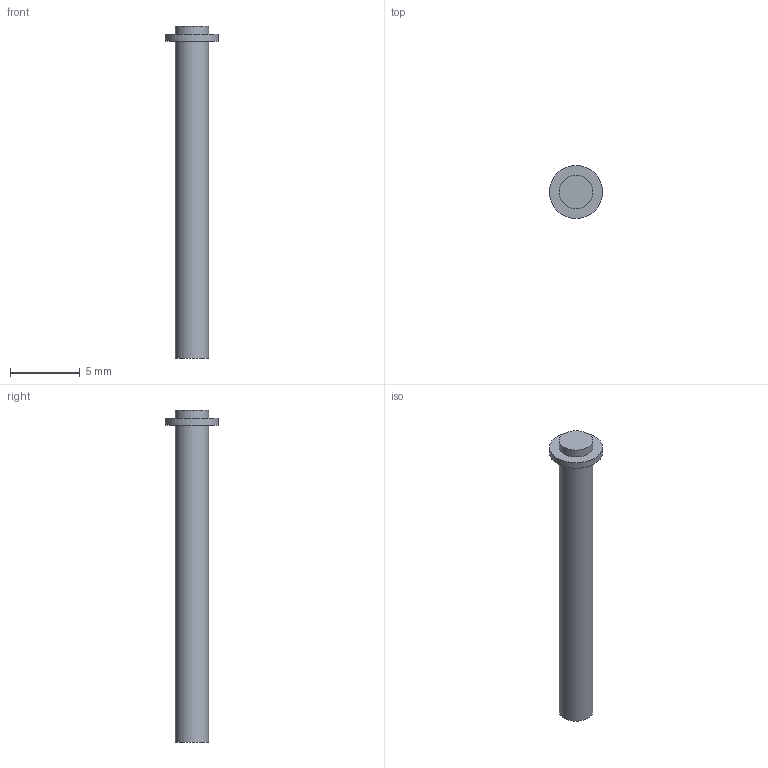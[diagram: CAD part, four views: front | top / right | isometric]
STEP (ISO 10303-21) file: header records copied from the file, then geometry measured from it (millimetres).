
FILE_DESCRIPTION(('FreeCAD Model'),'2;1');
FILE_NAME('Open CASCADE Shape Model','2026-10-24T11:59:21',('FreeCAD'),( 'FreeCAD'),'Open CASCADE STEP processor 7.8','FreeCAD','Unknown');
FILE_SCHEMA(('AUTOMOTIVE_DESIGN { 1 0 10303 214 1 1 1 1 }'));
Length unit declared in the file: millimetre
Products named in the file (1): Open CASCADE STEP translator 7.8 3
Bounding box: 3.8 x 3.8 x 23.8 mm (x, y, z)
Volume: 111.1 mm3; surface area: 204.3 mm2
Topology: 1 solids, 1 shells, 7 faces, 9 edges, 6 vertices
Faces by surface type: plane 4, cylinder 3
Full cylindrical faces by diameter (mm): 2.4 x2, 3.8 x1
Entity records: 159 total; most frequent: DIRECTION 31, CARTESIAN_POINT 23, ORIENTED_EDGE 18, AXIS2_PLACEMENT_3D 14, FACE_BOUND 9, EDGE_LOOP 9, EDGE_CURVE 9, ADVANCED_FACE 7
